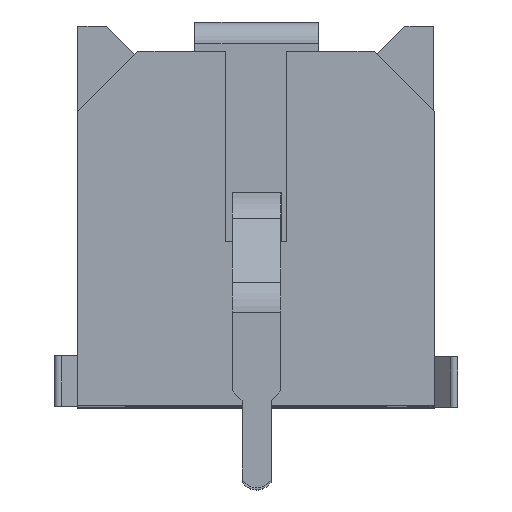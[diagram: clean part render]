
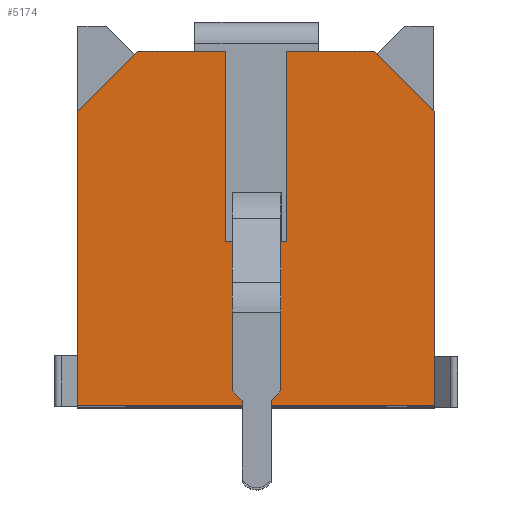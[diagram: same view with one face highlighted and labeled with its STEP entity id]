
A CAD part, top view. The second image highlights one B-rep face of the part: STEP entity #5174.
In plain terms, the highlighted planar face has unit normal (0, 0, 1).
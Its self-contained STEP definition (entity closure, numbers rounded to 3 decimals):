
#291=FACE_OUTER_BOUND($,#545,.T.);
#545=EDGE_LOOP($,(#4330,#4331,#4332,#4333,#4334,#4335,#4336,#4337,#4338,
#4339,#4340,#4341,#4342,#4343));
#744=LINE($,#7014,#1384);
#756=LINE($,#7046,#1396);
#812=LINE($,#7178,#1452);
#847=LINE($,#7253,#1487);
#851=LINE($,#7260,#1491);
#983=LINE($,#7557,#1623);
#1022=LINE($,#7638,#1662);
#1205=LINE($,#8037,#1845);
#1234=LINE($,#8095,#1874);
#1238=LINE($,#8102,#1878);
#1239=LINE($,#8105,#1879);
#1240=LINE($,#8106,#1880);
#1241=LINE($,#8108,#1881);
#1242=LINE($,#8109,#1882);
#1384=VECTOR($,#5732,0.19);
#1396=VECTOR($,#5756,2.388);
#1452=VECTOR($,#5870,0.19);
#1487=VECTOR($,#5949,0.299);
#1491=VECTOR($,#5953,0.354);
#1623=VECTOR($,#6197,17.48);
#1662=VECTOR($,#6262,14.45);
#1845=VECTOR($,#6617,14.45);
#1874=VECTOR($,#6676,9.35);
#1878=VECTOR($,#6682,9.35);
#1879=VECTOR($,#6685,4.27);
#1880=VECTOR($,#6686,4.172);
#1881=VECTOR($,#6687,4.172);
#1882=VECTOR($,#6688,4.27);
#2000=VERTEX_POINT($,#7012);
#2001=VERTEX_POINT($,#7013);
#2015=VERTEX_POINT($,#7045);
#2062=VERTEX_POINT($,#7177);
#2080=VERTEX_POINT($,#7252);
#2083=VERTEX_POINT($,#7258);
#2191=VERTEX_POINT($,#7554);
#2192=VERTEX_POINT($,#7556);
#2221=VERTEX_POINT($,#7636);
#2351=VERTEX_POINT($,#8036);
#2365=VERTEX_POINT($,#8094);
#2367=VERTEX_POINT($,#8100);
#2368=VERTEX_POINT($,#8104);
#2369=VERTEX_POINT($,#8107);
#2510=EDGE_CURVE($,#2000,#2001,#744,.T.);
#2526=EDGE_CURVE($,#2001,#2015,#756,.T.);
#2592=EDGE_CURVE($,#2015,#2062,#812,.T.);
#2631=EDGE_CURVE($,#2080,#2000,#847,.T.);
#2635=EDGE_CURVE($,#2062,#2083,#851,.T.);
#2781=EDGE_CURVE($,#2191,#2192,#983,.T.);
#2822=EDGE_CURVE($,#2221,#2191,#1022,.T.);
#3017=EDGE_CURVE($,#2192,#2351,#1205,.T.);
#3046=EDGE_CURVE($,#2365,#2080,#1234,.T.);
#3050=EDGE_CURVE($,#2083,#2367,#1238,.T.);
#3051=EDGE_CURVE($,#2368,#2367,#1239,.T.);
#3052=EDGE_CURVE($,#2351,#2368,#1240,.T.);
#3053=EDGE_CURVE($,#2369,#2221,#1241,.T.);
#3054=EDGE_CURVE($,#2365,#2369,#1242,.T.);
#4330=ORIENTED_EDGE($,*,*,#2592,.T.);
#4331=ORIENTED_EDGE($,*,*,#2635,.T.);
#4332=ORIENTED_EDGE($,*,*,#3050,.T.);
#4333=ORIENTED_EDGE($,*,*,#3051,.F.);
#4334=ORIENTED_EDGE($,*,*,#3052,.F.);
#4335=ORIENTED_EDGE($,*,*,#3017,.F.);
#4336=ORIENTED_EDGE($,*,*,#2781,.F.);
#4337=ORIENTED_EDGE($,*,*,#2822,.F.);
#4338=ORIENTED_EDGE($,*,*,#3053,.F.);
#4339=ORIENTED_EDGE($,*,*,#3054,.F.);
#4340=ORIENTED_EDGE($,*,*,#3046,.T.);
#4341=ORIENTED_EDGE($,*,*,#2631,.T.);
#4342=ORIENTED_EDGE($,*,*,#2510,.T.);
#4343=ORIENTED_EDGE($,*,*,#2526,.T.);
#4687=PLANE($,#5484);
#5174=ADVANCED_FACE($,(#291),#4687,.T.);
#5484=AXIS2_PLACEMENT_3D($,#8103,#6683,#6684);
#5732=DIRECTION($,(0.,-1.,0.));
#5756=DIRECTION($,(-1.,0.,0.));
#5870=DIRECTION($,(0.,1.,0.));
#5949=DIRECTION($,(-1.,0.,0.));
#5953=DIRECTION($,(-1.,0.,0.));
#6197=DIRECTION($,(-1.,0.,0.));
#6262=DIRECTION($,(0.,-1.,0.));
#6617=DIRECTION($,(0.,1.,0.));
#6676=DIRECTION($,(0.,-1.,0.));
#6682=DIRECTION($,(0.,1.,0.));
#6683=DIRECTION('center_axis',(0.,0.,1.));
#6684=DIRECTION('ref_axis',(1.,0.,0.));
#6685=DIRECTION($,(1.,0.,0.));
#6686=DIRECTION($,(0.707,0.707,0.));
#6687=DIRECTION($,(0.707,-0.707,0.));
#6688=DIRECTION($,(1.,0.,0.));
#7012=CARTESIAN_POINT('',(1.221,8.05,30.605));
#7013=CARTESIAN_POINT('',(1.221,7.86,30.605));
#7014=CARTESIAN_POINT($,(1.221,6.079,30.605));
#7045=CARTESIAN_POINT('',(-1.166,7.86,30.605));
#7046=CARTESIAN_POINT($,(-2.171,7.86,30.605));
#7177=CARTESIAN_POINT('',(-1.166,8.05,30.605));
#7178=CARTESIAN_POINT($,(-1.166,6.079,30.605));
#7252=CARTESIAN_POINT('',(1.52,8.05,30.605));
#7253=CARTESIAN_POINT($,(-2.185,8.05,30.605));
#7258=CARTESIAN_POINT('',(-1.52,8.05,30.605));
#7260=CARTESIAN_POINT($,(-2.185,8.05,30.605));
#7554=CARTESIAN_POINT('',(8.74,0.,30.605));
#7556=CARTESIAN_POINT('',(-8.74,0.,30.605));
#7557=CARTESIAN_POINT($,(-8.74,0.,30.605));
#7636=CARTESIAN_POINT('',(8.74,14.45,30.605));
#7638=CARTESIAN_POINT($,(8.74,0.,30.605));
#8036=CARTESIAN_POINT('',(-8.74,14.45,30.605));
#8037=CARTESIAN_POINT($,(-8.74,17.4,30.605));
#8094=CARTESIAN_POINT('',(1.52,17.4,30.605));
#8095=CARTESIAN_POINT($,(1.52,13.05,30.605));
#8100=CARTESIAN_POINT('',(-1.52,17.4,30.605));
#8102=CARTESIAN_POINT($,(-1.52,13.05,30.605));
#8103=CARTESIAN_POINT('Origin',(-4.37,8.7,30.605));
#8104=CARTESIAN_POINT('',(-5.79,17.4,30.605));
#8105=CARTESIAN_POINT($,(8.74,17.4,30.605));
#8106=CARTESIAN_POINT($,(-8.348,14.843,30.605));
#8107=CARTESIAN_POINT('',(5.79,17.4,30.605));
#8108=CARTESIAN_POINT($,(6.163,17.028,30.605));
#8109=CARTESIAN_POINT($,(8.74,17.4,30.605));
